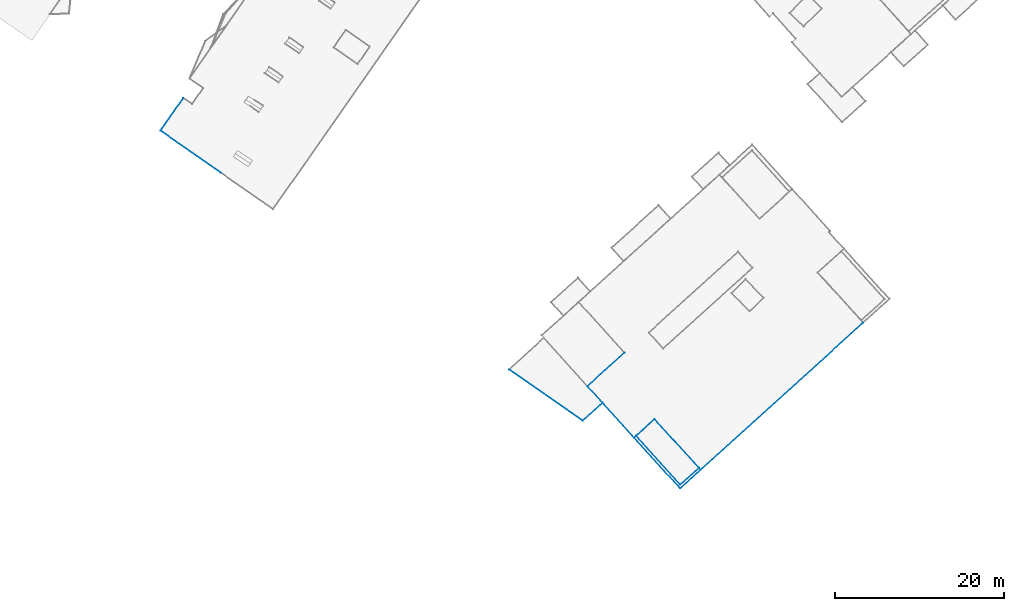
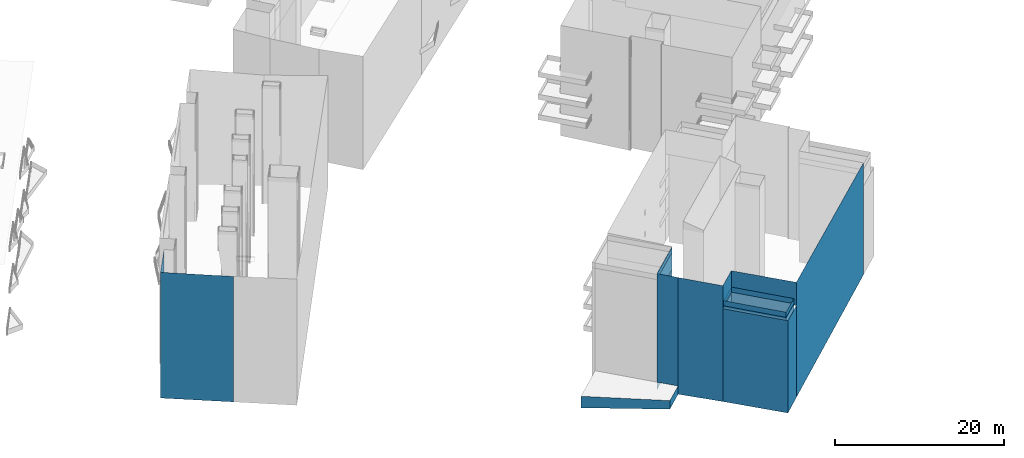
# Not in any storey, part 1 of 136: 27 walls.
"""IFC4 building model written with IfcOpenShell, lengths in metres."""

from ifc_helpers import new_model, entity, si_unit, converted_unit, frame, origin, place, context, subcontext, project, spatial, face_set, surface_model, element, save


model = new_model("IFC4")

# Units and contexts
model_context = context("Model", 3, precision=1e-05, world=origin())
body_context = subcontext(model_context, "Body", "Model", "MODEL_VIEW")
ifc_project = project(units=[converted_unit("PLANEANGLEUNIT", "DEGREE", entity("IfcRatioMeasure", 0.0174532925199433), si_unit("PLANEANGLEUNIT", "RADIAN"), dimensions=[0, 0, 0, 0, 0, 0, 0]), si_unit("AREAUNIT", "SQUARE_METRE"), si_unit("LENGTHUNIT", "METRE")], contexts=[model_context])

# Site, building
site_placement = place(None, origin())
site = spatial("IfcSite", under=ifc_project, at=site_placement, Name="_site")
building_1_placement = place(site_placement, origin())
building_1 = spatial("IfcBuilding", under=site, at=building_1_placement, Name="_building")

# Walls
wall_1_placement = place(building_1_placement, origin())
element("IfcWall", 1, at=wall_1_placement, inside=building_1, Name="Wall", PredefinedType="NOTDEFINED", context=body_context, shape_type="SurfaceModel", body=[
    surface_model("IfcFaceBasedSurfaceModel", [(3.55, 15.38, 53.85), (-3.54, 20.34, 53.93), (-3.54, 20.34, 35.741), (3.55, 15.38, 35.705)], [face_set([[[0, 1, 2, 3]]])]),
])
wall_2_placement = place(building_1_placement, origin())
element("IfcWall", 2, at=wall_2_placement, inside=building_1, Name="Wall", PredefinedType="NOTDEFINED", context=body_context, shape_type="SurfaceModel", body=[
    surface_model("IfcFaceBasedSurfaceModel", [(-3.54, 20.34, 53.93), (-0.84, 24.2, 53.93), (-0.84, 24.2, 35.761), (-3.54, 20.34, 35.741)], [face_set([[[0, 1, 2, 3]]])]),
])

# Building
building_2_placement = place(site_placement, origin())
building_2 = spatial("IfcBuilding", under=site, at=building_2_placement, Name="_building")

# Walls
wall_3_placement = place(building_2_placement, origin())
element("IfcWall", 3, at=wall_3_placement, inside=building_2, Name="Wall", PredefinedType="NOTDEFINED", context=body_context, shape_type="SurfaceModel", body=[
    surface_model("IfcFaceBasedSurfaceModel", [(54.87, -13.74, 51.26), (60.1, -19.51, 51.26), (60.1, -19.51, 52.01), (54.87, -13.74, 52.01)], [face_set([[[0, 1, 2, 3]]])]),
])
wall_4_placement = place(building_2_placement, origin())
element("IfcWall", 4, at=wall_4_placement, inside=building_2, Name="Wall", PredefinedType="NOTDEFINED", context=body_context, shape_type="SurfaceModel", body=[
    surface_model("IfcFaceBasedSurfaceModel", [(52.68, -15.72, 51.26), (54.87, -13.74, 51.26), (54.87, -13.74, 52.01), (52.68, -15.72, 52.01)], [face_set([[[0, 1, 2, 3]]])]),
])
wall_5_placement = place(building_2_placement, origin())
element("IfcWall", 5, at=wall_5_placement, inside=building_2, Name="Wall", PredefinedType="NOTDEFINED", context=body_context, shape_type="SurfaceModel", body=[
    surface_model("IfcFaceBasedSurfaceModel", [(57.9, -21.5, 51.26), (52.68, -15.72, 51.26), (52.68, -15.72, 52.01), (57.9, -21.5, 52.01)], [face_set([[[0, 1, 2, 3]]])]),
])
wall_6_placement = place(building_2_placement, origin())
element("IfcWall", 6, at=wall_6_placement, inside=building_2, Name="Wall", PredefinedType="NOTDEFINED", context=body_context, shape_type="SurfaceModel", body=[
    surface_model("IfcFaceBasedSurfaceModel", [(60.1, -19.51, 51.26), (57.9, -21.5, 51.26), (57.9, -21.5, 52.01), (60.1, -19.51, 52.01)], [face_set([[[0, 1, 2, 3]]])]),
])
wall_7_placement = place(building_2_placement, origin())
element("IfcWall", 7, at=wall_7_placement, inside=building_2, Name="Wall", PredefinedType="NOTDEFINED", context=body_context, shape_type="SurfaceModel", body=[
    surface_model("IfcFaceBasedSurfaceModel", [(54.87, -13.74, 51.26), (60.1, -19.51, 51.26), (60.1, -19.51, 52.01), (54.87, -13.74, 52.01)], [face_set([[[0, 1, 2, 3]]])]),
])
wall_8_placement = place(building_2_placement, origin())
element("IfcWall", 8, at=wall_8_placement, inside=building_2, Name="Wall", PredefinedType="NOTDEFINED", context=body_context, shape_type="SurfaceModel", body=[
    surface_model("IfcFaceBasedSurfaceModel", [(52.68, -15.72, 51.26), (54.87, -13.74, 51.26), (54.87, -13.74, 52.01), (52.68, -15.72, 52.01)], [face_set([[[0, 1, 2, 3]]])]),
])
wall_9_placement = place(building_2_placement, origin())
element("IfcWall", 9, at=wall_9_placement, inside=building_2, Name="Wall", PredefinedType="NOTDEFINED", context=body_context, shape_type="SurfaceModel", body=[
    surface_model("IfcFaceBasedSurfaceModel", [(57.9, -21.5, 51.26), (52.68, -15.72, 51.26), (52.68, -15.72, 52.01), (57.9, -21.5, 52.01)], [face_set([[[0, 1, 2, 3]]])]),
])
wall_10_placement = place(building_2_placement, origin())
element("IfcWall", 10, at=wall_10_placement, inside=building_2, Name="Wall", PredefinedType="NOTDEFINED", context=body_context, shape_type="SurfaceModel", body=[
    surface_model("IfcFaceBasedSurfaceModel", [(60.1, -19.51, 51.26), (57.9, -21.5, 51.26), (57.9, -21.5, 52.01), (60.1, -19.51, 52.01)], [face_set([[[0, 1, 2, 3]]])]),
])
wall_11_placement = place(building_2_placement, origin())
element("IfcWall", 11, at=wall_11_placement, inside=building_2, Name="Wall", PredefinedType="NOTDEFINED", context=body_context, shape_type="SurfaceModel", body=[
    surface_model("IfcFaceBasedSurfaceModel", [(51.31, -5.88, 53.51), (46.93, -9.84, 53.51), (46.93, -9.84, 37.513), (51.31, -5.88, 37.67)], [face_set([[[0, 1, 2, 3]]])]),
])
wall_12_placement = place(building_2_placement, origin())
element("IfcWall", 12, at=wall_12_placement, inside=building_2, Name="Wall", PredefinedType="NOTDEFINED", context=body_context, shape_type="SurfaceModel", body=[
    surface_model("IfcFaceBasedSurfaceModel", [(54.87, -13.74, 51.26), (60.1, -19.51, 51.26), (60.1, -19.51, 37.782), (54.87, -13.74, 37.757)], [face_set([[[0, 1, 2, 3]]])]),
])
wall_13_placement = place(building_2_placement, origin())
element("IfcWall", 13, at=wall_13_placement, inside=building_2, Name="Wall", PredefinedType="NOTDEFINED", context=body_context, shape_type="SurfaceModel", body=[
    surface_model("IfcFaceBasedSurfaceModel", [(52.68, -15.72, 51.26), (54.87, -13.74, 51.26), (54.87, -13.74, 37.757), (52.68, -15.72, 37.64)], [face_set([[[0, 1, 2, 3]]])]),
])
wall_14_placement = place(building_2_placement, origin())
element("IfcWall", 14, at=wall_14_placement, inside=building_2, Name="Wall", PredefinedType="NOTDEFINED", context=body_context, shape_type="SurfaceModel", body=[
    surface_model("IfcFaceBasedSurfaceModel", [(57.9, -21.5, 51.26), (52.68, -15.72, 51.26), (52.68, -15.72, 37.64), (57.9, -21.5, 37.711)], [face_set([[[0, 1, 2, 3]]])]),
])
wall_15_placement = place(building_2_placement, origin())
element("IfcWall", 15, at=wall_15_placement, inside=building_2, Name="Wall", PredefinedType="NOTDEFINED", context=body_context, shape_type="SurfaceModel", body=[
    surface_model("IfcFaceBasedSurfaceModel", [(60.1, -19.51, 51.26), (57.9, -21.5, 51.26), (57.9, -21.5, 37.711), (60.1, -19.51, 37.782)], [face_set([[[0, 1, 2, 3]]])]),
])
wall_16_placement = place(building_2_placement, origin())
element("IfcWall", 16, at=wall_16_placement, inside=building_2, Name="Wall", PredefinedType="NOTDEFINED", context=body_context, shape_type="SurfaceModel", body=[
    surface_model("IfcFaceBasedSurfaceModel", [(46.35, -13.939, 38.68), (37.68, -7.89, 38.68), (37.68, -7.89, 37.016), (46.35, -13.939, 37.447)], [face_set([[[0, 1, 2, 3]]])]),
])
wall_17_placement = place(building_2_placement, origin())
element("IfcWall", 17, at=wall_17_placement, inside=building_2, Name="Wall", PredefinedType="NOTDEFINED", context=body_context, shape_type="SurfaceModel", body=[
    surface_model("IfcFaceBasedSurfaceModel", [(48.71, -11.81, 38.68), (46.35, -13.939, 38.68), (46.35, -13.939, 37.447), (48.71, -11.81, 37.495)], [face_set([[[0, 1, 2, 3]]])]),
])
wall_18_placement = place(building_2_placement, origin())
element("IfcWall", 18, at=wall_18_placement, inside=building_2, Name="Wall", PredefinedType="NOTDEFINED", context=body_context, shape_type="SurfaceModel", body=[
    surface_model("IfcFaceBasedSurfaceModel", [(57.89, -21.939, 51.06), (52.45, -15.93, 51.06), (52.45, -15.93, 37.627), (57.89, -21.939, 37.701)], [face_set([[[0, 1, 2, 3]]])]),
])
wall_19_placement = place(building_2_placement, origin())
element("IfcWall", 19, at=wall_19_placement, inside=building_2, Name="Wall", PredefinedType="NOTDEFINED", context=body_context, shape_type="SurfaceModel", body=[
    surface_model("IfcFaceBasedSurfaceModel", [(60.31, -19.74, 51.06), (57.89, -21.939, 51.06), (57.89, -21.939, 37.701), (60.31, -19.74, 37.789)], [face_set([[[0, 1, 2, 3]]])]),
])
wall_20_placement = place(building_2_placement, origin())
element("IfcWall", 20, at=wall_20_placement, inside=building_2, Name="Wall", PredefinedType="NOTDEFINED", context=body_context, shape_type="SurfaceModel", body=[
    surface_model("IfcFaceBasedSurfaceModel", [(54.87, -13.74, 54.37), (52.45, -15.93, 54.37), (52.45, -15.93, 51.06), (54.87, -13.74, 51.06)], [face_set([[[0, 1, 2, 3]]])]),
])
wall_21_placement = place(building_2_placement, origin())
element("IfcWall", 21, at=wall_21_placement, inside=building_2, Name="Wall", PredefinedType="NOTDEFINED", context=body_context, shape_type="SurfaceModel", body=[
    surface_model("IfcFaceBasedSurfaceModel", [(60.31, -19.74, 54.43), (54.87, -13.74, 54.37), (54.87, -13.74, 51.06), (60.31, -19.74, 51.06)], [face_set([[[0, 1, 2, 3]]])]),
])
wall_22_placement = place(building_2_placement, origin())
element("IfcWall", 22, at=wall_22_placement, inside=building_2, Name="Wall", PredefinedType="NOTDEFINED", context=body_context, shape_type="SurfaceModel", body=[
    surface_model("IfcFaceBasedSurfaceModel", [(79.53, -2.34, 54.43), (60.31, -19.74, 54.43), (60.31, -19.74, 37.789), (79.53, -2.34, 38.219)], [face_set([[[0, 1, 2, 3]]])]),
])
wall_23_placement = place(building_2_placement, origin())
element("IfcWall", 23, at=wall_23_placement, inside=building_2, Name="Wall", PredefinedType="NOTDEFINED", context=body_context, shape_type="SurfaceModel", body=[
    surface_model("IfcFaceBasedSurfaceModel", [(46.93, -9.84, 54.37), (51.31, -5.88, 54.37), (51.31, -5.88, 51.06), (46.93, -9.84, 51.06)], [face_set([[[0, 1, 2, 3]]])]),
])
wall_24_placement = place(building_2_placement, origin())
element("IfcWall", 24, at=wall_24_placement, inside=building_2, Name="Wall", PredefinedType="NOTDEFINED", context=body_context, shape_type="SurfaceModel", body=[
    surface_model("IfcFaceBasedSurfaceModel", [(48.71, -11.81, 54.37), (46.93, -9.84, 54.37), (46.93, -9.84, 38.68), (48.71, -11.81, 38.68)], [face_set([[[0, 1, 2, 3]]])]),
])
wall_25_placement = place(building_2_placement, origin())
element("IfcWall", 25, at=wall_25_placement, inside=building_2, Name="Wall", PredefinedType="NOTDEFINED", context=body_context, shape_type="SurfaceModel", body=[
    surface_model("IfcFaceBasedSurfaceModel", [(52.45, -15.93, 54.37), (48.71, -11.81, 54.37), (48.71, -11.81, 37.495), (52.45, -15.93, 37.627)], [face_set([[[0, 1, 2, 3]]])]),
])
for number, where, name in (
    (26, (0.0, 0.0, 0.0), "Wall"),
    (27, (0.0, 0.0, 0.0), "Wall"),
):
    element("IfcWall", number, at=place(building_2_placement, frame(where)), inside=building_2, Name=name, PredefinedType="NOTDEFINED", context=body_context, shape_type="SurfaceModel", body=[
        surface_model("IfcFaceBasedSurfaceModel", [(51.31, -5.88, 53.51), (46.93, -9.84, 53.51), (46.93, -9.84, 54.26), (51.31, -5.88, 54.26)], [face_set([[[0, 1, 2, 3]]])]),
    ])

save(model, "model.ifc")
